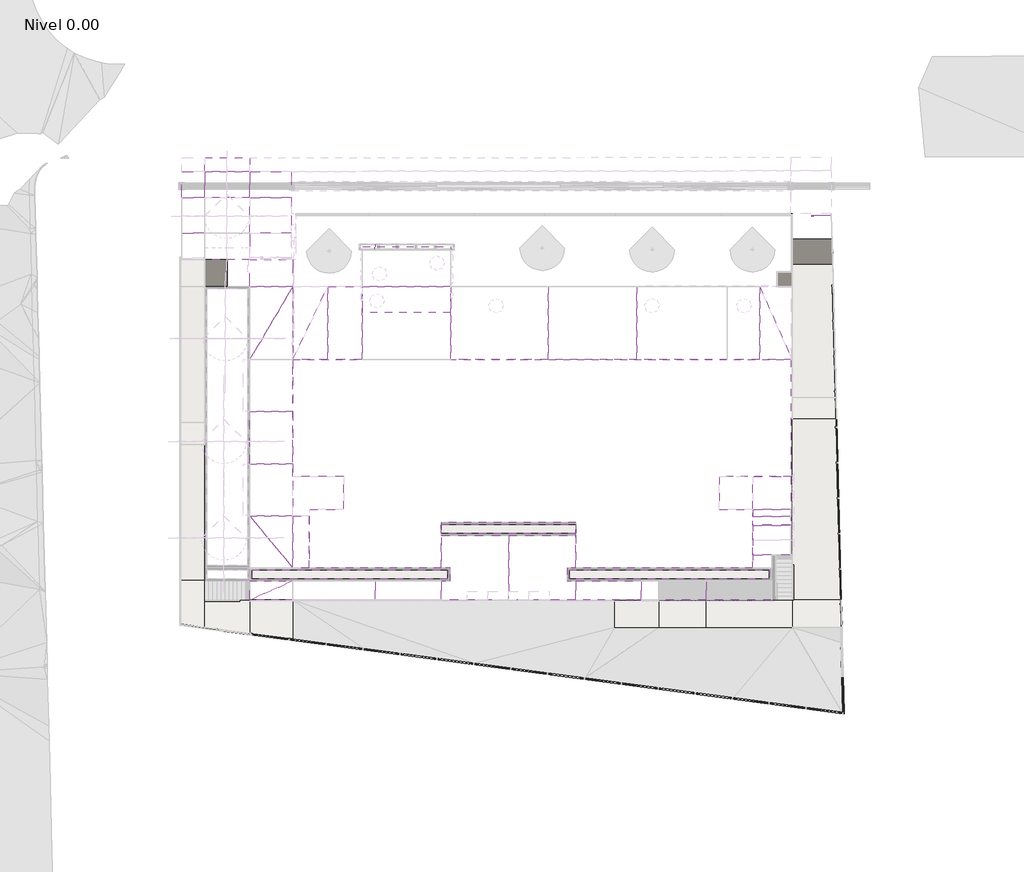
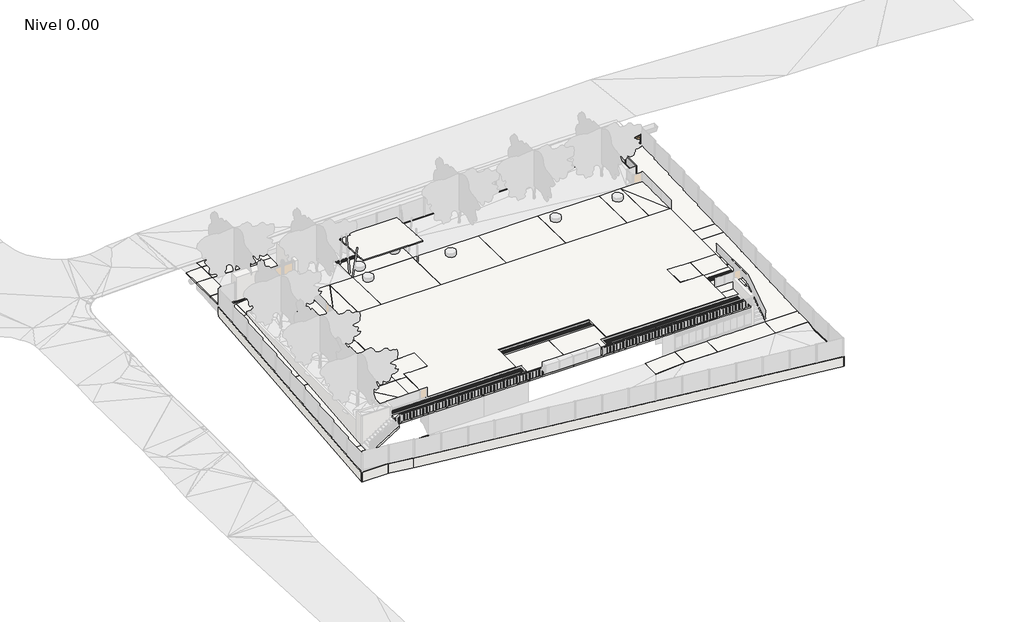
# One storey, part 2 of 10: 81 slabs, 7 members, 2 plates, 1 door.
"""IFC4 building model written with IfcOpenShell, lengths in millimetres."""

from ifc_helpers import new_model, si_unit, frame, origin, place, context, project, spatial, polyline, outline, extrude, faceted_brep, transform, mapped, element, save
from components import door_b53b04aa, rectangular_mullion_b59bd4ae, rectangular_mullion_01378f82, rectangular_mullion_9e2e89eb, rectangular_mullion_f37d23f4, system_panel_3fd6c7ae, slab_bfcec917, slab_3f6e9573, slab_2fa19d57, slab_a19fe4b6, slab_22806a78

model = new_model("IFC4")

# Units and contexts
model_context = context("Model", 3, world=origin())
ifc_project = project(units=[si_unit("LENGTHUNIT", "METRE", prefix="MILLI")], contexts=[model_context])

# Site, building, storey
site = spatial("IfcSite", under=ifc_project)
building = spatial("IfcBuilding", under=site)
storey = spatial("IfcBuildingStorey", under=building, Name="Nivel 0.00", Elevation=0.0)

# Door
placement = place(None, origin())
door_shape = door_b53b04aa(model_context)
element("IfcDoor", 1, ObjectType="PORTON_REJA : PORTON_REJA", at=placement, inside=storey, context=model_context, shape_type="MappedRepresentation", body=[
    mapped(door_shape, transform((19298.5436982, 10678.4129304, 1500.0), x_axis=(1.0, 0.0, 0.0), y_axis=(0.0, 1.0, 0.0), z_axis=(0.0, 0.0, 1.0))),
])

# Members
rectangular_mullion_shape = rectangular_mullion_b59bd4ae(model_context)
element("IfcMember", 2, ObjectType="Rectangular Mullion : ARQ_REJA_MULL_50x30mm", at=placement, inside=storey, context=model_context, shape_type="MappedRepresentation", body=[
    mapped(rectangular_mullion_shape, transform((17966.2770642, 8727.2563048, 2480.0), x_axis=(0.0, 0.0, 1.0), y_axis=(-1.0, 0.0, 0.0), z_axis=(0.0, -1.0, 0.0))),
])
rectangular_mullion_2_shape = rectangular_mullion_01378f82(model_context)
element("IfcMember", 3, ObjectType="Rectangular Mullion : ARQ_REJA_MULL_50x30mm", at=placement, inside=storey, context=model_context, shape_type="MappedRepresentation", body=[
    mapped(rectangular_mullion_2_shape, transform((17916.2770642, 6787.2563048, 1500.0), x_axis=(0.0, 0.0, -1.0), y_axis=(0.0, 1.0, 0.0), z_axis=(1.0, 0.0, 0.0))),
])
element("IfcMember", 4, ObjectType="Rectangular Mullion : ARQ_REJA_MULL_50x30mm", at=placement, inside=storey, context=model_context, shape_type="MappedRepresentation", body=[
    mapped(rectangular_mullion_shape, transform((17966.2770642, 10567.2563048, 1500.0), x_axis=(0.0, 0.0, -1.0), y_axis=(-1.0, 0.0, 0.0), z_axis=(0.0, 1.0, 0.0))),
])
element("IfcMember", 5, ObjectType="Rectangular Mullion : ARQ_REJA_MULL_50x30mm", at=placement, inside=storey, context=model_context, shape_type="MappedRepresentation", body=[
    mapped(rectangular_mullion_shape, transform((17966.2770642, 8677.2563048, 1500.0), x_axis=(0.0, 0.0, -1.0), y_axis=(-1.0, 0.0, 0.0), z_axis=(0.0, 1.0, 0.0))),
])
rectangular_mullion_3_shape = rectangular_mullion_9e2e89eb(model_context)
element("IfcMember", 6, ObjectType="Rectangular Mullion : ARQ_REJA_MULL_50x50mm", at=placement, inside=storey, context=model_context, shape_type="MappedRepresentation", body=[
    mapped(rectangular_mullion_3_shape, transform((17966.2770642, 8702.2563048, 1500.0), x_axis=(0.0, -1.0, 0.0), y_axis=(-1.0, 0.0, 0.0), z_axis=(0.0, 0.0, -1.0))),
])
rectangular_mullion_4_shape = rectangular_mullion_f37d23f4(model_context)
element("IfcMember", 7, ObjectType="Rectangular Mullion : ARQ_REJA_MULL_50x50mm", at=placement, inside=storey, context=model_context, shape_type="MappedRepresentation", body=[
    mapped(rectangular_mullion_4_shape, transform((17966.2770642, 10617.2563048, 2480.0), x_axis=(0.0, 1.0, 0.0), y_axis=(-1.0, 0.0, 0.0), z_axis=(0.0, 0.0, 1.0))),
])
element("IfcMember", 8, ObjectType="Rectangular Mullion : ARQ_REJA_MULL_50x50mm", at=placement, inside=storey, context=model_context, shape_type="MappedRepresentation", body=[
    mapped(rectangular_mullion_4_shape, transform((17966.2770642, 6787.2563048, 2480.0), x_axis=(1.0, 0.0, 0.0), y_axis=(0.0, 1.0, 0.0), z_axis=(0.0, 0.0, 1.0))),
])

# Plates
system_panel_shape = system_panel_3fd6c7ae(model_context)
element("IfcPlate", 9, ObjectType="System Panel : MALLA ACMA", at=placement, inside=storey, context=model_context, shape_type="MappedRepresentation", body=[
    mapped(system_panel_shape, transform((17966.2770642, 9647.2563048, 1530.0), x_axis=(0.0, -1.0, 0.0), y_axis=(1.0, 0.0, 0.0), z_axis=(0.0, 0.0, 1.0))),
])
element("IfcPlate", 10, ObjectType="System Panel : MALLA ACMA", at=placement, inside=storey, context=model_context, shape_type="MappedRepresentation", body=[
    mapped(system_panel_shape, transform((17966.2770642, 7757.2563048, 1530.0), x_axis=(0.0, -1.0, 0.0), y_axis=(1.0, 0.0, 0.0), z_axis=(0.0, 0.0, 1.0))),
])

# Slabs
element("IfcSlab", 11, ObjectType="HORMIGON_SOBRESUELO_200mm", at=placement, inside=storey, context=model_context, shape_type="SweptSolid", body=[
    extrude(outline(polyline([(-16105.4703321, 775.6548754), (17905.5257449, 775.6548754), (17905.5257449, -7204.6648325), (13022.272638, -7204.6648325), (13022.272638, -9454.6965974), (15325.501639, -9454.6965974), (15325.501639, -13454.664938), (3227.4758984, -13454.664938), (3227.4758984, -10350.5740908), (-5969.7253182, -10350.5740908), (-5969.7253182, -13454.664938), (-15005.7010594, -13454.664938), (-15005.7010594, -9454.664938), (-12635.2387284, -9454.664938), (-12635.2387284, -7204.664938), (-16105.4703321, -7204.664938), (-16105.4703321, 775.6548754)])), frame((0.0, 0.0, 1350.0), z_axis=(0.0, 0.0, 1.0), x_axis=(1.0, 0.0, 0.0)), (0.0, 0.0, 1.0), 200.0),
])
element("IfcSlab", 12, ObjectType="ARQ_LOSA_HOMRIGON_100mm", at=placement, inside=storey, context=model_context, shape_type="SweptSolid", body=[
    extrude(outline(polyline([(8509.9222569, 3959.8457979), (4009.9222569, 4209.8457979), (4009.9222569, 4310.0), (8509.9222569, 4060.0), (8509.9222569, 3959.8457979)])), frame((-11335.194761, 0.0, 0.0), z_axis=(1.0, 0.0, 0.0), x_axis=(0.0, 1.0, 0.0)), (0.0, 0.0, 1.0), 6000.0),
])
element("IfcSlab", 13, ObjectType="ARQ_LOSA_HOMRIGON_100mm", at=placement, inside=storey, context=model_context, shape_type="SweptSolid", body=[
    extrude(outline(polyline([(-19057.5715014, -14350.4600242), (-19057.5715014, -13450.5485726), (-5369.7329107, -13450.5485726), (-5369.7329107, -14350.4600242), (-19057.5715014, -14350.4600242)])), frame((0.0, 0.0, 1000.0), z_axis=(0.0, 0.0, 1.0), x_axis=(1.0, 0.0, 0.0)), (0.0, 0.0, 1.0), 100.0),
])
element("IfcSlab", 14, ObjectType="ARQ_LOSA_HOMRIGON_100mm", at=placement, inside=storey, context=model_context, shape_type="SweptSolid", body=[
    extrude(outline(polyline([(-5970.0557705, -10350.5617629), (3227.1464348, -10350.5617629), (3227.1464348, -11250.5609005), (-5970.0557705, -11250.5609005), (-5970.0557705, -10350.5617629)])), frame((0.0, 0.0, 1000.0), z_axis=(0.0, 0.0, 1.0), x_axis=(1.0, 0.0, 0.0)), (0.0, 0.0, 1.0), 100.0),
])
element("IfcSlab", 15, ObjectType="ARQ_LOSA_HOMRIGON_100mm", at=placement, inside=storey, context=model_context, shape_type="SweptSolid", body=[
    extrude(outline(polyline([(2627.4842547, -13450.5485726), (16605.5250488, -13450.5485726), (16605.5250488, -14350.460038), (2627.4842547, -14350.460038), (2627.4842547, -13450.5485726)])), frame((0.0, 0.0, 1000.0), z_axis=(0.0, 0.0, 1.0), x_axis=(1.0, 0.0, 0.0)), (0.0, 0.0, 1.0), 100.0),
])
element("IfcSlab", 16, ObjectType="HORMIGON_M.CONTEN_1000mm", at=placement, inside=storey, context=model_context, shape_type="SweptSolid", body=[
    extrude(outline(polyline([(18006.2770642, 10779.2316763), (18006.2770642, 10628.4129304), (-15904.8329211, 10628.4129304), (-15904.8329211, 10779.2316763), (18006.2770642, 10779.2316763)])), frame((0.0, 0.0, 500.0), z_axis=(0.0, 0.0, 1.0), x_axis=(1.0, 0.0, 0.0)), (0.0, 0.0, 1.0), 1000.0),
])
element("IfcSlab", 17, ObjectType="HORMIGON_M.CONTEN_1000mm", at=placement, inside=storey, context=model_context, shape_type="Brep", body=[
    faceted_brep([(21420.8547927, -17533.6331597, -1733.9405767), (21443.8857201, -18426.6950519, -1999.2746328), (21343.9189564, -18429.2730673, -1999.2746328), (21320.8215453, -17533.6331597, -1733.1746328), (21420.8547927, -17533.6331597, -690.7659439), (21320.8215453, -17533.6331597, -690.0), (21343.9189564, -18429.2730673, -956.1), (21443.8857201, -18426.6950519, -956.1)], [[[0, 1, 2, 3]], [[4, 5, 6, 7]], [[1, 0, 4, 7]], [[2, 1, 7, 6]], [[3, 2, 6, 5]], [[0, 3, 5, 4]]]),
])
element("IfcSlab", 18, ObjectType="HORMIGON_M.CONTEN_1000mm", at=placement, inside=storey, context=model_context, shape_type="SweptSolid", body=[
    extrude(outline(polyline([(-56.1, -2498.815988), (0.0, 0.0), (1000.2519837, 0.0), (944.1519837, -2498.815988), (-56.1, -2498.815988)])), frame((21408.3388165, -20927.2585403, -1900.2519837), z_axis=(0.999667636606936, 0.025780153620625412, 0.0), x_axis=(0.0, 0.0, 1.0)), (0.0, 0.0, 1.0), 100.0),
])
element("IfcSlab", 19, ObjectType="HORMIGON_M.CONTEN_1000mm", at=placement, inside=storey, context=model_context, shape_type="SweptSolid", body=[
    extrude(outline(polyline([(21508.3055801, -20924.6805249), (21570.740537, -23345.6981321), (21470.3620315, -23332.310182), (21408.3388165, -20927.2585403), (21508.3055801, -20924.6805249)])), frame((0.0, 0.0, -1900.0), z_axis=(0.0, 0.0, 1.0), x_axis=(1.0, 0.0, 0.0)), (0.0, 0.0, 1.0), 1000.0),
])
element("IfcSlab", 20, ObjectType="HORMIGON_M.CONTEN_1000mm", at=placement, inside=storey, context=model_context, shape_type="SweptSolid", body=[
    extrude(outline(polyline([(21472.97272, -23433.5439011), (-18990.2145491, -18036.7796549), (-18976.9941513, -17937.6574017), (21585.4023129, -23347.6536416), (21572.1819151, -23446.7758948), (21472.97272, -23433.5439011)])), frame((0.0, 0.0, -1900.0), z_axis=(0.0, 0.0, 1.0), x_axis=(1.0, 0.0, 0.0)), (0.0, 0.0, 1.0), 1000.0),
])
element("IfcSlab", 21, ObjectType="HORMIGON_M.CONTEN_1000mm", at=placement, inside=storey, context=model_context, shape_type="SweptSolid", body=[
    extrude(outline(polyline([(50.0, -2398.6152605), (0.0, 0.0), (1000.2172409, 0.0), (1050.2172409, -2398.6152605), (50.0, -2398.6152605)])), frame((-18991.0487559, -18043.0342665, -1900.2172409), z_axis=(0.13220397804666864, 0.9912225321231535, 0.0), x_axis=(0.0, 0.0, 1.0)), (0.0, 0.0, 1.0), 100.0),
])
element("IfcSlab", 22, ObjectType="HORMIGON_M.CONTEN_1000mm", at=placement, inside=storey, context=model_context, shape_type="Brep", body=[
    faceted_brep([(-21368.610248, -17725.9277872, -1862.7142029), (-23761.6001891, -17406.7635437, -2119.8726918), (-23858.2805205, -17406.7635437, -2130.080687), (-23858.2805205, -17306.7635437, -2131.4889237), (-23754.9608519, -17306.7635437, -2120.579914), (-21355.3898502, -17626.805534, -1862.7142029), (-21368.610248, -17725.9277872, -857.05695), (-21355.3898502, -17626.805534, -857.05695), (-23754.9608519, -17306.7635437, -1114.9226611), (-23858.2805205, -17306.7635437, -1125.8316708), (-23858.2805205, -17406.7635437, -1124.423434), (-23761.6001891, -17406.7635437, -1114.2154389)], [[[0, 1, 2, 3, 4, 5]], [[6, 7, 8, 9, 10, 11]], [[1, 0, 6, 11]], [[2, 1, 11, 10]], [[3, 2, 10, 9]], [[4, 3, 9, 8]], [[5, 4, 8, 7]], [[0, 5, 7, 6]]]),
])
element("IfcSlab", 23, ObjectType="HORMIGON_M.CONTEN_1000mm", at=placement, inside=storey, context=model_context, shape_type="SweptSolid", body=[
    extrude(outline(polyline([(7783.2364563, 389.1268048), (-17306.7635437, -2121.2931952), (-17306.7635437, -1116.3), (7783.2364563, 1394.12), (7783.2364563, 389.1268048)])), frame((-23858.2805205, 0.0, 0.0), z_axis=(1.0, 0.0, 0.0), x_axis=(0.0, 1.0, 0.0)), (0.0, 0.0, 1.0), 100.0),
])
slab_shape = slab_bfcec917(model_context)
element("IfcSlab", 24, ObjectType="REGUERA_METÁLICA1 : REGUERA_METÁLICA-01", at=placement, inside=storey, context=model_context, shape_type="MappedRepresentation", body=[
    mapped(slab_shape, transform((0.0, 0.0, 0.0), x_axis=(1.0, 0.0, 0.0), y_axis=(0.0, 1.0, 0.0), z_axis=(0.0, 0.0, 1.0))),
])
slab_2_shape = slab_3f6e9573(model_context)
element("IfcSlab", 25, ObjectType="REGUERA_METÁLICA2 : REGUERA_METÁLICA-02", at=placement, inside=storey, context=model_context, shape_type="MappedRepresentation", body=[
    mapped(slab_2_shape, transform((0.0, 0.0, -100.0), x_axis=(1.0, 0.0, 0.0), y_axis=(0.0, 1.0, 0.0), z_axis=(0.0, 0.0, 1.0))),
])
slab_3_shape = slab_2fa19d57(model_context)
element("IfcSlab", 26, ObjectType="REGUERA_METÁLICA3 : REGUERA_METÁLICA-03", at=placement, inside=storey, context=model_context, shape_type="MappedRepresentation", body=[
    mapped(slab_3_shape, transform((0.0, 0.0, -100.0), x_axis=(1.0, 0.0, 0.0), y_axis=(0.0, 1.0, 0.0), z_axis=(0.0, 0.0, 1.0))),
])
slab_4_shape = slab_a19fe4b6(model_context)
element("IfcSlab", 27, ObjectType="REGUERA_METÁLICA4 : REGUERA_METÁLICA-04", at=placement, inside=storey, context=model_context, shape_type="MappedRepresentation", body=[
    mapped(slab_4_shape, transform((0.0, 0.0, -100.0), x_axis=(1.0, 0.0, 0.0), y_axis=(0.0, 1.0, 0.0), z_axis=(0.0, 0.0, 1.0))),
])
slab_5_shape = slab_22806a78(model_context)
element("IfcSlab", 28, ObjectType="REGUERA_METÁLICA5 : REGUERA_METÁLICA-03", at=placement, inside=storey, context=model_context, shape_type="MappedRepresentation", body=[
    mapped(slab_5_shape, transform((0.0, 0.0, 0.0), x_axis=(1.0, 0.0, 0.0), y_axis=(0.0, 1.0, 0.0), z_axis=(0.0, 0.0, 1.0))),
])
element("IfcSlab", 29, ObjectType="HORMIGON_EXTERIOR_100mm", at=placement, inside=storey, context=model_context, shape_type="SweptSolid", body=[
    extrude(outline(polyline([(17905.5257449, -10542.9331265), (15325.501639, -10542.9331265), (15325.501639, -9942.9331264), (17905.5257449, -9942.9331264), (17905.5257449, -10542.9331265)]), holes=[polyline([(15355.501639, -9972.9331264), (15355.501639, -10512.9331265), (17875.5257449, -10512.9331265), (17875.5257449, -9972.9331264), (15355.501639, -9972.9331264)])]), frame((0.0, 0.0, 1350.0), z_axis=(0.0, 0.0, 1.0), x_axis=(1.0, 0.0, 0.0)), (0.0, 0.0, 1.0), 100.0),
])
element("IfcSlab", 30, ObjectType="HORMIGON_EXTERIOR_150mm", at=placement, inside=storey, context=model_context, shape_type="Brep", body=[
    faceted_brep([(-19057.6009113, 14585.8770601, 1248.9763312), (-19057.6009113, 13646.8235037, 1349.148963), (-22137.5710032, 13646.8235037, 1349.148963), (-22137.5710032, 14582.640438, 1249.3215948), (-19057.6009113, 14585.8770601, 1399.8273682), (-22137.5710032, 14582.640438, 1400.1726318), (-22137.5710032, 13646.8235037, 1500.0), (-19057.6009113, 13646.8235037, 1500.0)], [[[0, 1, 2, 3]], [[4, 5, 6, 7]], [[1, 0, 4, 7]], [[2, 1, 7, 6]], [[3, 2, 6, 5]], [[0, 3, 5, 4]]]),
])
element("IfcSlab", 31, ObjectType="HORMIGON_EXTERIOR_150mm", at=placement, inside=storey, context=model_context, shape_type="SweptSolid", body=[
    extrude(outline(polyline([(-22137.5711158, 13644.706719), (-22137.5711158, 11845.0592075), (-23708.3183969, 11845.0592075), (-23708.3183969, 13644.706719), (-22137.5711158, 13644.706719)])), frame((0.0, 0.0, 1349.9998947), z_axis=(0.0, 0.0, 1.0), x_axis=(1.0, 0.0, 0.0)), (0.0, 0.0, 1.0), 150.0),
])
element("IfcSlab", 32, ObjectType="HORMIGON_EXTERIOR_150mm", at=placement, inside=storey, context=model_context, shape_type="SweptSolid", body=[
    extrude(outline(polyline([(-19057.5970453, 13646.8235037), (-19057.5970453, 11845.0592075), (-22137.5710032, 11845.0592075), (-22137.5710032, 13646.8235037), (-19057.5970453, 13646.8235037)])), frame((0.0, 0.0, 1349.9998947), z_axis=(0.0, 0.0, 1.0), x_axis=(1.0, 0.0, 0.0)), (0.0, 0.0, 1.0), 150.0),
])
element("IfcSlab", 33, ObjectType="HORMIGON_EXTERIOR_150mm", at=placement, inside=storey, context=model_context, shape_type="SweptSolid", body=[
    extrude(outline(polyline([(-16212.3329211, 13646.5643861), (-16212.3329211, 11845.0592075), (-19057.596933, 11845.0592075), (-19057.596933, 13646.5643861), (-16212.3329211, 13646.5643861)])), frame((0.0, 0.0, 1349.9998947), z_axis=(0.0, 0.0, 1.0), x_axis=(1.0, 0.0, 0.0)), (0.0, 0.0, 1.0), 150.0),
])
element("IfcSlab", 34, ObjectType="HORMIGON_EXTERIOR_150mm", at=placement, inside=storey, context=model_context, shape_type="SweptSolid", body=[
    extrude(outline(polyline([(-23708.2806331, 11845.0592075), (-22137.5711158, 11845.0592075), (-22137.5711158, 9420.6088239), (-23708.2806331, 9420.6088239), (-23708.2806331, 11845.0592075)])), frame((0.0, 0.0, 1349.9998947), z_axis=(0.0, 0.0, 1.0), x_axis=(1.0, 0.0, 0.0)), (0.0, 0.0, 1.0), 150.0),
])
element("IfcSlab", 35, ObjectType="HORMIGON_EXTERIOR_150mm", at=placement, inside=storey, context=model_context, shape_type="SweptSolid", body=[
    extrude(outline(polyline([(-16212.3329211, 11845.0592075), (-16212.3329211, 9420.6088239), (-19057.5970453, 9420.6088239), (-19057.5970453, 11845.0592075), (-16212.3329211, 11845.0592075)])), frame((0.0, 0.0, 1349.9998947), z_axis=(0.0, 0.0, 1.0), x_axis=(1.0, 0.0, 0.0)), (0.0, 0.0, 1.0), 150.0),
])
element("IfcSlab", 36, ObjectType="HORMIGON_EXTERIOR_150mm", at=placement, inside=storey, context=model_context, shape_type="SweptSolid", body=[
    extrude(outline(polyline([(-19057.5970453, 7625.1276387), (-19057.5970453, 9420.6088331), (-16212.3329211, 9420.6088331), (-16212.3329211, 7625.1276387), (-19057.5970453, 7625.1276387)])), frame((0.0, 0.0, 1349.9998947), z_axis=(0.0, 0.0, 1.0), x_axis=(1.0, 0.0, 0.0)), (0.0, 0.0, 1.0), 150.0),
])
element("IfcSlab", 37, ObjectType="HORMIGON_EXTERIOR_150mm", at=placement, inside=storey, context=model_context, shape_type="SweptSolid", body=[
    extrude(outline(polyline([(-22137.5710032, 9420.6088239), (-19057.5970453, 9420.6088239), (-19057.5970453, 7620.6088239), (-22137.5710032, 7620.6088239), (-22137.5710032, 9420.6088239)])), frame((0.0, 0.0, 1349.9998947), z_axis=(0.0, 0.0, 1.0), x_axis=(1.0, 0.0, 0.0)), (0.0, 0.0, 1.0), 150.0),
])
element("IfcSlab", 38, ObjectType="HORMIGON_EXTERIOR_150mm", at=placement, inside=storey, context=model_context, shape_type="SweptSolid", body=[
    extrude(outline(polyline([(-22137.5711159, 9420.6088239), (-22137.5711159, 7625.1276387), (-23708.2806331, 7625.1276387), (-23708.2806331, 9420.6088239), (-22137.5711159, 9420.6088239)])), frame((0.0, 0.0, 1349.9998947), z_axis=(0.0, 0.0, 1.0), x_axis=(1.0, 0.0, 0.0)), (0.0, 0.0, 1.0), 150.0),
])
element("IfcSlab", 39, ObjectType="HORMIGON_EXTERIOR_150mm", at=placement, inside=storey, context=model_context, shape_type="SweptSolid", body=[
    extrude(outline(polyline([(-22137.5711159, 7620.6088239), (-22137.5711159, 5786.4923314), (-23758.2805205, 5786.4923314), (-23758.2805205, 7620.6088239), (-22137.5711159, 7620.6088239)])), frame((0.0, 0.0, 1049.9998947), z_axis=(0.0, 0.0, 1.0), x_axis=(1.0, 0.0, 0.0)), (0.0, 0.0, 1.0), 150.0),
])
element("IfcSlab", 40, ObjectType="HORMIGON_EXTERIOR_150mm", at=placement, inside=storey, context=model_context, shape_type="SweptSolid", body=[
    extrude(outline(polyline([(1049.2900292, -22137.5711159), (1349.2900292, -19057.5715512), (1499.9998947, -19057.5715512), (1199.9998947, -22137.5711159), (1049.2900292, -22137.5711159)])), frame((0.0, 5786.4484666, 0.0), z_axis=(0.0, 1.0, 0.0), x_axis=(0.0, 0.0, 1.0)), (0.0, 0.0, 1.0), 1838.6791721),
])
element("IfcSlab", 41, ObjectType="HORMIGON_EXTERIOR_150mm", at=placement, inside=storey, context=model_context, shape_type="SweptSolid", body=[
    extrude(outline(polyline([(-19057.5715512, 5786.4923314), (-19057.5715512, 7625.1276387), (-16105.3188266, 7625.1276387), (-16105.3188266, 5786.4923314), (-19057.5715512, 5786.4923314)])), frame((0.0, 0.0, 1349.9998947), z_axis=(0.0, 0.0, 1.0), x_axis=(1.0, 0.0, 0.0)), (0.0, 0.0, 1.0), 150.0),
])
element("IfcSlab", 42, ObjectType="HORMIGON_EXTERIOR_150mm", at=placement, inside=storey, context=model_context, shape_type="SweptSolid", body=[
    extrude(outline(polyline([(5786.4923314, 1049.2509174), (-3508.2596588, 119.2509174), (-3508.2596588, 269.9998947), (5786.4923314, 1199.9998947), (5786.4923314, 1049.2509174)])), frame((-23758.2805205, 0.0, 0.0), z_axis=(1.0, 0.0, 0.0), x_axis=(0.0, 1.0, 0.0)), (0.0, 0.0, 1.0), 1620.7094046),
])
element("IfcSlab", 43, ObjectType="HORMIGON_EXTERIOR_150mm", at=placement, inside=storey, context=model_context, shape_type="SweptSolid", body=[
    extrude(outline(polyline([(-22137.5711159, -3508.2596588), (-22137.5711159, -5008.2596588), (-23758.2805205, -5008.2596588), (-23758.2805205, -3508.2596588), (-22137.5711159, -3508.2596588)])), frame((0.0, 0.0, 119.9998947), z_axis=(0.0, 0.0, 1.0), x_axis=(1.0, 0.0, 0.0)), (0.0, 0.0, 1.0), 150.0),
])
element("IfcSlab", 44, ObjectType="HORMIGON_EXTERIOR_150mm", at=placement, inside=storey, context=model_context, shape_type="SweptSolid", body=[
    extrude(outline(polyline([(-5008.2596588, 119.2509174), (-14303.0116489, -810.7490826), (-14303.0116489, -660.0001053), (-5008.2596588, 269.9998947), (-5008.2596588, 119.2509174)])), frame((-23758.2805205, 0.0, 0.0), z_axis=(1.0, 0.0, 0.0), x_axis=(0.0, 1.0, 0.0)), (0.0, 0.0, 1.0), 1620.7094046),
])
element("IfcSlab", 45, ObjectType="HORMIGON_EXTERIOR_150mm", at=placement, inside=storey, context=model_context, shape_type="SweptSolid", body=[
    extrude(outline(polyline([(-21860.1824996, -14303.0116489), (-21860.1824996, -15653.0981615), (-22137.5710033, -15653.0981615), (-22137.5710033, -17522.4823809), (-23758.2805205, -17306.320784), (-23758.2805205, -14303.0116489), (-21860.1824996, -14303.0116489)])), frame((0.0, 0.0, -810.0001053), z_axis=(0.0, 0.0, 1.0), x_axis=(1.0, 0.0, 0.0)), (0.0, 0.0, 1.0), 150.0),
])
element("IfcSlab", 46, ObjectType="HORMIGON_EXTERIOR_150mm", at=placement, inside=storey, context=model_context, shape_type="Brep", body=[
    faceted_brep([(-22137.5710033, -15653.0981615, -810.2852429), (-19057.5711857, -15653.0981615, -1000.2852429), (-19057.5711857, -17933.27634, -1000.2852429), (-22137.5710033, -17522.4823809, -810.2852429), (-22137.5710033, -15653.0981615, -660.0001053), (-22137.5710033, -17522.4823809, -660.0001053), (-19057.5711857, -17933.27634, -850.0001053), (-19057.5711857, -15653.0981615, -850.0001053)], [[[0, 1, 2, 3]], [[4, 5, 6, 7]], [[1, 0, 4, 7]], [[2, 1, 7, 6]], [[3, 2, 6, 5]], [[0, 3, 5, 4]]]),
])
element("IfcSlab", 47, ObjectType="HORMIGON_EXTERIOR_150mm", at=placement, inside=storey, context=model_context, shape_type="SweptSolid", body=[
    extrude(outline(polyline([(-16105.5690678, -15653.0755384), (-16105.5690678, -18320.6327744), (-19057.5711857, -17926.9104663), (-19057.5711857, -15653.0755384), (-16105.5690678, -15653.0755384)])), frame((0.0, 0.0, -1000.0001053), z_axis=(0.0, 0.0, 1.0), x_axis=(1.0, 0.0, 0.0)), (0.0, 0.0, 1.0), 150.0),
])
element("IfcSlab", 48, ObjectType="HORMIGON_EXTERIOR_150mm", at=placement, inside=storey, context=model_context, shape_type="Brep", body=[
    faceted_brep([(-19057.5692937, -15653.0755384, 1369.9821029), (-16105.5690678, -14354.586138, 1349.9821029), (-16105.5690678, -15653.0755384, 1369.9821029), (-19057.5692937, -15653.0755384, 1519.9998947), (-16105.5690678, -15653.0755384, 1519.9998947), (-16105.5690678, -14354.586138, 1499.9998947)], [[[0, 1, 2]], [[3, 4, 5]], [[1, 0, 3, 5]], [[2, 1, 5, 4]], [[0, 2, 4, 3]]]),
])
element("IfcSlab", 49, ObjectType="HORMIGON_EXTERIOR_150mm", at=placement, inside=storey, context=model_context, shape_type="SweptSolid", body=[
    extrude(outline(polyline([(-19057.5710032, -15653.0762903), (-19057.5710032, -14354.5640618), (-16105.5188795, -14354.5640618), (-19057.5710032, -15653.0762903)])), frame((0.0, 0.0, 1349.9998947), z_axis=(0.0, 0.0, 1.0), x_axis=(1.0, 0.0, 0.0)), (0.0, 0.0, 1.0), 150.0),
])
element("IfcSlab", 50, ObjectType="HORMIGON_EXTERIOR_150mm", at=placement, inside=storey, context=model_context, shape_type="SweptSolid", body=[
    extrude(outline(polyline([(-14354.5640618, 1349.9821036), (-15653.0786145, 1369.9821036), (-15653.0786145, 1519.9998947), (-14354.5640618, 1499.9998947), (-14354.5640618, 1349.9821036)])), frame((-16105.5188795, 0.0, 0.0), z_axis=(1.0, 0.0, 0.0), x_axis=(0.0, 1.0, 0.0)), (0.0, 0.0, 1.0), 5618.0465676),
])
element("IfcSlab", 51, ObjectType="HORMIGON_EXTERIOR_150mm", at=placement, inside=storey, context=model_context, shape_type="SweptSolid", body=[
    extrude(outline(polyline([(-14354.5640618, 1349.9821036), (-15653.0786145, 1369.9821036), (-15653.0786145, 1519.9998947), (-14354.5640618, 1499.9998947), (-14354.5640618, 1349.9821036)])), frame((-10487.4723119, 0.0, 0.0), z_axis=(1.0, 0.0, 0.0), x_axis=(0.0, 1.0, 0.0)), (0.0, 0.0, 1.0), 4517.7469937),
])
element("IfcSlab", 52, ObjectType="HORMIGON_EXTERIOR_150mm", at=placement, inside=storey, context=model_context, shape_type="Brep", body=[
    faceted_brep([(-5969.7253182, -15653.079504, 1369.9936921), (-5969.7253182, -14354.6619487, 1358.1857749), (-5369.7342942, -14354.6619487, 1358.1857749), (-5369.7342942, -13454.664938, 1350.0011272), (-5969.7253182, -13454.664938, 1350.0011272), (-5969.7253182, -11254.6152211, 1329.9936921), (-1371.1242154, -11254.6152211, 1329.9936921), (-1371.1242154, -15653.079504, 1369.9936921), (-5969.7253182, -15653.079504, 1519.9998947), (-1371.1242154, -15653.079504, 1519.9998947), (-1371.1242154, -11254.6152211, 1479.9998947), (-5969.7253182, -11254.6152211, 1479.9998947), (-5969.7253182, -13454.664938, 1500.0073298), (-5369.7342942, -13454.664938, 1500.0073298), (-5369.7342942, -14354.6619487, 1508.1919774), (-5969.7253182, -14354.6619487, 1508.1919774)], [[[0, 1, 2, 3, 4, 5, 6, 7]], [[8, 9, 10, 11, 12, 13, 14, 15]], [[1, 0, 8, 15]], [[2, 1, 15, 14]], [[3, 2, 14, 13]], [[4, 3, 13, 12]], [[5, 4, 12, 11]], [[6, 5, 11, 10]], [[7, 6, 10, 9]], [[0, 7, 9, 8]]]),
])
element("IfcSlab", 53, ObjectType="HORMIGON_EXTERIOR_150mm", at=placement, inside=storey, context=model_context, shape_type="Brep", body=[
    faceted_brep([(3227.4719013, -11254.6643667, 1329.993692), (3227.4719013, -13454.612315, 1350.0004251), (2627.4808773, -13454.612315, 1350.0004251), (2627.4808773, -14354.6664362, 1358.1856836), (3227.4719013, -14354.6619487, 1358.1856428), (3227.4719013, -15653.079504, 1369.993692), (-1371.1283507, -15653.079504, 1369.993692), (-1371.1292015, -11254.6643667, 1329.993692), (3227.4719013, -11254.6643667, 1479.9998947), (-1371.1292015, -11254.6643667, 1479.9998947), (-1371.1283507, -15653.079504, 1519.9998947), (3227.4719013, -15653.079504, 1519.9998947), (3227.4719013, -14354.6619487, 1508.1918455), (2627.4808773, -14354.6664362, 1508.1918863), (2627.4808773, -13454.612315, 1500.0066278), (3227.4719013, -13454.612315, 1500.0066278)], [[[0, 1, 2, 3, 4, 5, 6, 7]], [[8, 9, 10, 11, 12, 13, 14, 15]], [[1, 0, 8, 15]], [[2, 1, 15, 14]], [[3, 2, 14, 13]], [[4, 3, 13, 12]], [[5, 4, 12, 11]], [[6, 5, 11, 10]], [[7, 6, 10, 9]], [[0, 7, 9, 8]]]),
])
element("IfcSlab", 54, ObjectType="HORMIGON_EXTERIOR_150mm", at=placement, inside=storey, context=model_context, shape_type="Brep", body=[
    faceted_brep([(7686.8259848, -14354.6619487, 1349.982101), (7686.8259848, -15653.0159448, 1369.981095), (7185.3981866, -15653.0812561, 1369.982101), (3227.4719013, -15653.0812561, 1369.982101), (3227.4719013, -14354.6619487, 1349.982101), (7686.8259848, -14354.6619487, 1499.9998947), (3227.4719013, -14354.6619487, 1499.9998947), (3227.4719013, -15653.0812561, 1519.9998947), (7185.3981866, -15653.0812561, 1519.9998947), (7686.8259848, -15653.0159448, 1519.9988887)], [[[0, 1, 2, 3, 4]], [[5, 6, 7, 8, 9]], [[1, 0, 5, 9]], [[4, 3, 7, 6]], [[0, 4, 6, 5]], [[2, 1, 9, 8]], [[3, 2, 8, 7]]]),
])
element("IfcSlab", 55, ObjectType="HORMIGON_EXTERIOR_150mm", at=placement, inside=storey, context=model_context, shape_type="SweptSolid", body=[
    extrude(outline(polyline([(-14354.6619487, 1349.9820992), (-15653.0159448, 1369.9820992), (-15653.0159448, 1519.9998947), (-14354.6619487, 1499.9998947), (-14354.6619487, 1349.9820992)])), frame((7686.8259848, 0.0, 0.0), z_axis=(1.0, 0.0, 0.0), x_axis=(0.0, 1.0, 0.0)), (0.0, 0.0, 1.0), 4459.3490959),
])
element("IfcSlab", 56, ObjectType="HORMIGON_EXTERIOR_150mm", at=placement, inside=storey, context=model_context, shape_type="SweptSolid", body=[
    extrude(outline(polyline([(-14354.6619487, 1349.9820992), (-15653.0159448, 1369.9820992), (-15653.0159448, 1519.9998947), (-14354.6619487, 1499.9998947), (-14354.6619487, 1349.9820992)])), frame((12146.1750807, 0.0, 0.0), z_axis=(1.0, 0.0, 0.0), x_axis=(0.0, 1.0, 0.0)), (0.0, 0.0, 1.0), 4459.3490879),
])
element("IfcSlab", 57, ObjectType="HORMIGON_EXTERIOR_150mm", at=placement, inside=storey, context=model_context, shape_type="SweptSolid", body=[
    extrude(outline(polyline([(-1000.2132572, 5877.3981866), (-840.2132572, 8877.6095488), (-690.0001053, 8877.6095488), (-850.0001053, 5877.3981866), (-1000.2132572, 5877.3981866)])), frame((0.0, -17533.9831701, 0.0), z_axis=(0.0, 1.0, 0.0), x_axis=(0.0, 0.0, 1.0)), (0.0, 0.0, 1.0), 1860.9019141),
])
element("IfcSlab", 58, ObjectType="HORMIGON_EXTERIOR_150mm", at=placement, inside=storey, context=model_context, shape_type="SweptSolid", body=[
    extrude(outline(polyline([(12146.1750821, -17533.6706701), (8877.6095488, -17533.6706701), (8877.6095488, -15653.0159448), (12146.1750821, -15653.0159448), (12146.1750821, -17533.6706701)])), frame((0.0, 0.0, -840.0001053), z_axis=(0.0, 0.0, 1.0), x_axis=(1.0, 0.0, 0.0)), (0.0, 0.0, 1.0), 150.0),
])
element("IfcSlab", 59, ObjectType="HORMIGON_EXTERIOR_150mm", at=placement, inside=storey, context=model_context, shape_type="Brep", body=[
    faceted_brep([(12146.1750807, -17533.6331597, -840.0191896), (12146.1750807, -15653.0159448, -810.0191896), (16905.5253342, -15653.0159448, -810.0191896), (16905.5253342, -15373.3842754, -805.5584466), (18005.5396192, -15373.3842754, -805.5584466), (18005.5396192, -17533.6331597, -840.0191896), (12146.1750807, -17533.6331597, -690.0001053), (18005.5396192, -17533.6331597, -690.0001053), (18005.5396192, -15373.3842754, -655.5393623), (16905.5253342, -15373.3842754, -655.5393623), (16905.5253342, -15653.0159448, -660.0001053), (12146.1750807, -15653.0159448, -660.0001053)], [[[0, 1, 2, 3, 4, 5]], [[6, 7, 8, 9, 10, 11]], [[1, 0, 6, 11]], [[2, 1, 11, 10]], [[5, 4, 8, 7]], [[0, 5, 7, 6]], [[3, 2, 10, 9]], [[4, 3, 9, 8]]]),
])
element("IfcSlab", 60, ObjectType="HORMIGON_EXTERIOR_150mm", at=placement, inside=storey, context=model_context, shape_type="Brep", body=[
    faceted_brep([(18005.5396192, -15653.0786726, -810.0191909), (21372.3576904, -15653.0786726, -810.0191909), (21420.8547927, -17533.6331597, -840.0191909), (18005.5396192, -17533.6331597, -840.0191909), (18005.5396192, -15653.0786726, -660.0001053), (18005.5396192, -17533.6331597, -690.0001053), (21420.8547927, -17533.6331597, -690.0001053), (21372.3576904, -15653.0786726, -660.0001053)], [[[0, 1, 2, 3]], [[4, 5, 6, 7]], [[1, 0, 4, 7]], [[2, 1, 7, 6]], [[3, 2, 6, 5]], [[0, 3, 5, 4]]]),
])
element("IfcSlab", 61, ObjectType="HORMIGON_EXTERIOR_150mm", at=placement, inside=storey, context=model_context, shape_type="Brep", body=[
    faceted_brep([(18005.5257456, -15653.0786726, -810.5716435), (18005.5257456, -3293.0786547, 269.4283565), (21053.6090509, -3293.0786547, 269.4283565), (21372.3576904, -15653.0786726, -810.5716435), (18005.5257456, -15653.0786726, -660.0001053), (21372.3576904, -15653.0786726, -660.0001053), (21053.6090509, -3293.0786547, 419.9998947), (18005.5257456, -3293.0786547, 419.9998947)], [[[0, 1, 2, 3]], [[4, 5, 6, 7]], [[1, 0, 4, 7]], [[2, 1, 7, 6]], [[3, 2, 6, 5]], [[0, 3, 5, 4]]]),
])
element("IfcSlab", 62, ObjectType="HORMIGON_EXTERIOR_150mm", at=placement, inside=storey, context=model_context, shape_type="SweptSolid", body=[
    extrude(outline(polyline([(21014.9259636, -1793.0786547), (21053.6090509, -3293.0786547), (18005.5257458, -3293.0786547), (18005.5257458, -1793.0786547), (21014.9259636, -1793.0786547)])), frame((0.0, 0.0, 269.9998947), z_axis=(0.0, 0.0, 1.0), x_axis=(1.0, 0.0, 0.0)), (0.0, 0.0, 1.0), 150.0),
])
element("IfcSlab", 63, ObjectType="HORMIGON_EXTERIOR_150mm", at=placement, inside=storey, context=model_context, shape_type="Brep", body=[
    faceted_brep([(18005.5257456, -1793.0786547, 269.4469736), (18005.5257456, 10773.8010383, 1349.458115), (20690.8484405, 10773.5575396, 1349.4371884), (21014.9259636, -1793.0786547, 269.4469736), (18005.5257456, -1793.0786547, 419.9998947), (21014.9259636, -1793.0786547, 419.9998947), (20690.8484405, 10773.5575396, 1499.9901095), (18005.5257456, 10773.8010383, 1500.011036)], [[[0, 1, 2, 3]], [[4, 5, 6, 7]], [[1, 0, 4, 7]], [[2, 1, 7, 6]], [[3, 2, 6, 5]], [[0, 3, 5, 4]]]),
])
element("IfcSlab", 64, ObjectType="HORMIGON_EXTERIOR_150mm", at=placement, inside=storey, context=model_context, shape_type="SweptSolid", body=[
    extrude(outline(polyline([(5786.4923289, 1249.9700273), (775.6548743, 1349.9700273), (775.6548743, 1499.9998947), (5786.4923289, 1399.9998947), (5786.4923289, 1249.9700273)])), frame((7374.8865803, 0.0, 0.0), z_axis=(1.0, 0.0, 0.0), x_axis=(0.0, 1.0, 0.0)), (0.0, 0.0, 1.0), 6209.9001687),
])
element("IfcSlab", 65, ObjectType="HORMIGON_EXTERIOR_150mm", at=placement, inside=storey, context=model_context, shape_type="SweptSolid", body=[
    extrude(outline(polyline([(5786.4923289, 1249.9700273), (775.6548754, 1349.9700273), (775.6548754, 1499.9998947), (5786.4923289, 1399.9998947), (5786.4923289, 1249.9700273)])), frame((1334.5854818, 0.0, 0.0), z_axis=(1.0, 0.0, 0.0), x_axis=(0.0, 1.0, 0.0)), (0.0, 0.0, 1.0), 6040.3010985),
])
element("IfcSlab", 66, ObjectType="HORMIGON_EXTERIOR_150mm", at=placement, inside=storey, context=model_context, shape_type="SweptSolid", body=[
    extrude(outline(polyline([(5786.4923289, 1249.9700273), (775.6548754, 1349.9700273), (775.6548754, 1499.9998947), (5786.4923289, 1399.9998947), (5786.4923289, 1249.9700273)])), frame((-5315.2388723, 0.0, 0.0), z_axis=(1.0, 0.0, 0.0), x_axis=(0.0, 1.0, 0.0)), (0.0, 0.0, 1.0), 6649.8243542),
])
element("IfcSlab", 67, ObjectType="HORMIGON_EXTERIOR_150mm", at=placement, inside=storey, context=model_context, shape_type="SweptSolid", body=[
    extrude(outline(polyline([(5786.4923289, 1249.9700183), (776.4101897, 1349.9700183), (776.4101897, 1499.9998947), (5786.4923289, 1399.9998947), (5786.4923289, 1249.9700183)])), frame((-11355.1504225, 0.0, 0.0), z_axis=(1.0, 0.0, 0.0), x_axis=(0.0, 1.0, 0.0)), (0.0, 0.0, 1.0), 6039.9115502),
])
element("IfcSlab", 68, ObjectType="HORMIGON_EXTERIOR_150mm", at=placement, inside=storey, context=model_context, shape_type="SweptSolid", body=[
    extrude(outline(polyline([(-11355.1504225, 5786.4923289), (-11355.1504225, 8280.9816931), (-5315.2388723, 8280.9816931), (-5315.2388723, 5786.4923289), (-11355.1504225, 5786.4923289)])), frame((0.0, 0.0, 1249.9998947), z_axis=(0.0, 0.0, 1.0), x_axis=(1.0, 0.0, 0.0)), (0.0, 0.0, 1.0), 150.0),
])
element("IfcSlab", 69, ObjectType="HORMIGON_EXTERIOR_150mm", at=placement, inside=storey, context=model_context, shape_type="SweptSolid", body=[
    extrude(outline(polyline([(5786.4923289, 1249.9700183), (776.4101897, 1349.9700183), (776.4101897, 1499.9998947), (5786.4923289, 1399.9998947), (5786.4923289, 1249.9700183)])), frame((-13730.1963435, 0.0, 0.0), z_axis=(1.0, 0.0, 0.0), x_axis=(0.0, 1.0, 0.0)), (0.0, 0.0, 1.0), 2375.0459209),
])
element("IfcSlab", 70, ObjectType="HORMIGON_EXTERIOR_150mm", at=placement, inside=storey, context=model_context, shape_type="Brep", body=[
    faceted_brep([(-16105.4703321, 775.3350043, 1349.9700311), (-13730.193793, 5786.4923317, 1249.9700311), (-13730.193793, 775.3350043, 1349.9700311), (-16105.4703321, 775.3350043, 1499.9998947), (-13730.193793, 775.3350043, 1499.9998947), (-13730.193793, 5786.4923317, 1399.9998947)], [[[0, 1, 2]], [[3, 4, 5]], [[1, 0, 3, 5]], [[2, 1, 5, 4]], [[0, 2, 4, 3]]]),
])
element("IfcSlab", 71, ObjectType="HORMIGON_EXTERIOR_150mm", at=placement, inside=storey, context=model_context, shape_type="Brep", body=[
    faceted_brep([(-16105.2371637, 5786.4923287, 1349.8669944), (-13730.1937945, 5786.4923287, 1249.8669944), (-16105.2371637, 775.8269233, 1349.8669944), (-16105.2371637, 5786.4923287, 1499.9998947), (-16105.2371637, 775.8269233, 1499.9998947), (-13730.1937945, 5786.4923287, 1399.9998947)], [[[0, 1, 2]], [[3, 4, 5]], [[1, 0, 3, 5]], [[2, 1, 5, 4]], [[0, 2, 4, 3]]]),
])
element("IfcSlab", 72, ObjectType="HORMIGON_EXTERIOR_150mm", at=placement, inside=storey, context=model_context, shape_type="Brep", body=[
    faceted_brep([(-16105.2371637, 5786.4923314, 1349.9972067), (-19057.5707845, 775.3352074, 1319.9972067), (-19057.5707845, 5786.4923314, 1349.9972067), (-16105.2371637, 5786.4923314, 1499.9998947), (-19057.5707845, 5786.4923314, 1499.9998947), (-19057.5707845, 775.3352074, 1469.9998947)], [[[0, 1, 2]], [[3, 4, 5]], [[1, 0, 3, 5]], [[2, 1, 5, 4]], [[0, 2, 4, 3]]]),
])
element("IfcSlab", 73, ObjectType="HORMIGON_EXTERIOR_150mm", at=placement, inside=storey, context=model_context, shape_type="Brep", body=[
    faceted_brep([(-16105.2371637, 5786.4923314, 1349.994519), (-16105.2371637, 775.6548754, 1349.994519), (-19057.3824514, 775.6548754, 1319.9940441), (-16105.2371637, 5786.4923314, 1500.0022642), (-19057.3824514, 775.6548754, 1470.0017893), (-16105.2371637, 775.6548754, 1500.0022642)], [[[0, 1, 2]], [[3, 4, 5]], [[1, 0, 3, 5]], [[2, 1, 5, 4]], [[0, 2, 4, 3]]]),
])
element("IfcSlab", 74, ObjectType="HORMIGON_EXTERIOR_150mm", at=placement, inside=storey, context=model_context, shape_type="SweptSolid", body=[
    extrude(outline(polyline([(1319.9921495, -19057.5688857), (1349.9921495, -16105.4703321), (1499.9998947, -16105.4703321), (1469.9998947, -19057.5688857), (1319.9921495, -19057.5688857)])), frame((0.0, -2782.1649813, 0.0), z_axis=(0.0, 1.0, 0.0), x_axis=(0.0, 0.0, 1.0)), (0.0, 0.0, 1.0), 3557.4999856),
])
element("IfcSlab", 75, ObjectType="HORMIGON_EXTERIOR_150mm", at=placement, inside=storey, context=model_context, shape_type="SweptSolid", body=[
    extrude(outline(polyline([(1319.9921495, -19057.5714386), (1349.9921495, -16105.4703321), (1499.9998947, -16105.4703321), (1469.9998947, -19057.5714386), (1319.9921495, -19057.5714386)])), frame((0.0, -6339.6649669, 0.0), z_axis=(0.0, 1.0, 0.0), x_axis=(0.0, 0.0, 1.0)), (0.0, 0.0, 1.0), 3557.4999856),
])
element("IfcSlab", 76, ObjectType="HORMIGON_EXTERIOR_150mm", at=placement, inside=storey, context=model_context, shape_type="SweptSolid", body=[
    extrude(outline(polyline([(1319.9921495, -19057.5707845), (1349.9921495, -16105.4703321), (1499.9998947, -16105.4703321), (1469.9998947, -19057.5707845), (1319.9921495, -19057.5707845)])), frame((0.0, -9898.187894, 0.0), z_axis=(0.0, 1.0, 0.0), x_axis=(0.0, 0.0, 1.0)), (0.0, 0.0, 1.0), 3558.5229271),
])
element("IfcSlab", 77, ObjectType="HORMIGON_EXTERIOR_150mm", at=placement, inside=storey, context=model_context, shape_type="Brep", body=[
    faceted_brep([(-19057.5871216, -9897.1647493, 1319.9919835), (-16105.5690769, -9897.1647493, 1349.991146), (-16105.5690769, -13454.6649378, 1349.991146), (-19057.5871216, -9897.1647493, 1469.9997287), (-16105.5690769, -13454.6649378, 1499.9988912), (-16105.5690769, -9897.1647493, 1499.9988912)], [[[0, 1, 2]], [[3, 4, 5]], [[1, 0, 3, 5]], [[2, 1, 5, 4]], [[0, 2, 4, 3]]]),
])
element("IfcSlab", 78, ObjectType="HORMIGON_EXTERIOR_150mm", at=placement, inside=storey, context=model_context, shape_type="Brep", body=[
    faceted_brep([(-16105.5690768, -13454.664938, 1349.9945608), (-19057.4727029, -13454.664938, 1349.9945608), (-19057.4727029, -9897.3026361, 1319.9945608), (-16105.5690768, -13454.664938, 1499.9998947), (-19057.4727029, -9897.3026361, 1469.9998947), (-19057.4727029, -13454.664938, 1499.9998947)], [[[0, 1, 2]], [[3, 4, 5]], [[1, 0, 3, 5]], [[2, 1, 5, 4]], [[0, 2, 4, 3]]]),
])
element("IfcSlab", 79, ObjectType="HORMIGON_EXTERIOR_150mm", at=placement, inside=storey, context=model_context, shape_type="SweptSolid", body=[
    extrude(outline(polyline([(-15005.7010594, -13454.6649378), (-16105.5690769, -13454.6649378), (-16105.5690769, -9897.1647493), (-15005.7010594, -9897.1647493), (-15005.7010594, -13454.6649378)])), frame((0.0, 0.0, 1349.9998947), z_axis=(0.0, 0.0, 1.0), x_axis=(1.0, 0.0, 0.0)), (0.0, 0.0, 1.0), 150.0),
])
element("IfcSlab", 80, ObjectType="HORMIGON_EXTERIOR_150mm", at=placement, inside=storey, context=model_context, shape_type="Brep", body=[
    faceted_brep([(-12635.2387284, -7204.664938, 1449.9376282), (-12635.2387284, -9454.664938, 1449.9376282), (-15005.2387281, -9454.664938, 1381.6424747), (-15005.2387281, -9897.1647493, 1381.6424747), (-16105.4703321, -9897.1647493, 1349.9376282), (-16105.4703321, -7204.664938, 1349.9376282), (-12635.2387284, -7204.664938, 1599.9998947), (-16105.4703321, -7204.664938, 1499.9998947), (-16105.4703321, -9897.1647493, 1499.9998947), (-15005.2387281, -9897.1647493, 1531.7047412), (-15005.2387281, -9454.664938, 1531.7047412), (-12635.2387284, -9454.664938, 1599.9998947)], [[[0, 1, 2, 3, 4, 5]], [[6, 7, 8, 9, 10, 11]], [[1, 0, 6, 11]], [[2, 1, 11, 10]], [[3, 2, 10, 9]], [[4, 3, 9, 8]], [[5, 4, 8, 7]], [[0, 5, 7, 6]]]),
])
element("IfcSlab", 81, ObjectType="HORMIGON_EXTERIOR_150mm", at=placement, inside=storey, context=model_context, shape_type="SweptSolid", body=[
    extrude(outline(polyline([(5786.4923295, 1249.9700273), (775.6548754, 1349.9700273), (775.6548754, 1499.9998947), (5786.4923295, 1399.9998947), (5786.4923295, 1249.9700273)])), frame((13585.3788782, 0.0, 0.0), z_axis=(1.0, 0.0, 0.0), x_axis=(0.0, 1.0, 0.0)), (0.0, 0.0, 1.0), 2209.7773692),
])
element("IfcSlab", 82, ObjectType="HORMIGON_EXTERIOR_150mm", at=placement, inside=storey, context=model_context, shape_type="Brep", body=[
    faceted_brep([(15795.1562474, 5786.4923287, 1249.9700273), (18005.5257456, 775.6548754, 1349.9700273), (15795.1562474, 775.6548754, 1349.9700273), (15795.1562474, 5786.4923287, 1399.9998947), (15795.1562474, 775.6548754, 1499.9998947), (18005.5257456, 775.6548754, 1499.9998947)], [[[0, 1, 2]], [[3, 4, 5]], [[1, 0, 3, 5]], [[2, 1, 5, 4]], [[0, 2, 4, 3]]]),
])
element("IfcSlab", 83, ObjectType="HORMIGON_EXTERIOR_150mm", at=placement, inside=storey, context=model_context, shape_type="Brep", body=[
    faceted_brep([(15795.1562474, 5786.4923287, 1279.9852589), (18005.5257456, 5786.4923287, 1279.9852589), (18005.5257456, 775.6548754, 1349.9852589), (15795.1562474, 5786.4923287, 1429.9998947), (18005.5257456, 775.6548754, 1499.9998947), (18005.5257456, 5786.4923287, 1429.9998947)], [[[0, 1, 2]], [[3, 4, 5]], [[1, 0, 3, 5]], [[2, 1, 5, 4]], [[0, 2, 4, 3]]]),
])
element("IfcSlab", 84, ObjectType="HORMIGON_EXTERIOR_150mm", at=placement, inside=storey, context=model_context, shape_type="SweptSolid", body=[
    extrude(outline(polyline([(15325.501639, -13454.6649516), (15325.501639, -12573.0786725), (16605.5251614, -12573.0786725), (16605.5251614, -13454.6649516), (15325.501639, -13454.6649516)])), frame((0.0, 0.0, 1369.9998947), z_axis=(0.0, 0.0, 1.0), x_axis=(1.0, 0.0, 0.0)), (0.0, 0.0, 1.0), 150.0),
])
element("IfcSlab", 85, ObjectType="HORMIGON_EXTERIOR_150mm", at=placement, inside=storey, context=model_context, shape_type="SweptSolid", body=[
    extrude(outline(polyline([(-10542.9331265, 1349.9926159), (-12573.0786725, 1369.9926159), (-12573.0786725, 1519.9998947), (-10542.9331265, 1499.9998947), (-10542.9331265, 1349.9926159)])), frame((15325.501639, 0.0, 0.0), z_axis=(1.0, 0.0, 0.0), x_axis=(0.0, 1.0, 0.0)), (0.0, 0.0, 1.0), 2580.024106),
])
element("IfcSlab", 86, ObjectType="HORMIGON_EXTERIOR_150mm", at=placement, inside=storey, context=model_context, shape_type="SweptSolid", body=[
    extrude(outline(polyline([(-9454.6965974, 1369.8740953), (-9942.9331264, 1349.8740953), (-9942.9331264, 1499.9998947), (-9454.6965974, 1519.9998947), (-9454.6965974, 1369.8740953)])), frame((15325.501639, 0.0, 0.0), z_axis=(1.0, 0.0, 0.0), x_axis=(0.0, 1.0, 0.0)), (0.0, 0.0, 1.0), 2580.024106),
])
element("IfcSlab", 87, ObjectType="HORMIGON_EXTERIOR_150mm", at=placement, inside=storey, context=model_context, shape_type="SweptSolid", body=[
    extrude(outline(polyline([(15325.501639, -7204.6648325), (17905.5257449, -7204.6648325), (17905.5257449, -9454.6965974), (15325.501639, -9454.6965974), (15325.501639, -7204.6648325)])), frame((0.0, 0.0, 1369.9998947), z_axis=(0.0, 0.0, 1.0), x_axis=(1.0, 0.0, 0.0)), (0.0, 0.0, 1.0), 150.0),
])
element("IfcSlab", 88, ObjectType="HORMIGON_EXTERIOR_150mm", at=placement, inside=storey, context=model_context, shape_type="SweptSolid", body=[
    extrude(outline(polyline([(1449.9094389, 13022.272638), (1369.9094389, 15325.501639), (1519.9998947, 15325.501639), (1599.9998947, 13022.272638), (1449.9094389, 13022.272638)])), frame((0.0, -9454.6965974, 0.0), z_axis=(0.0, 1.0, 0.0), x_axis=(0.0, 0.0, 1.0)), (0.0, 0.0, 1.0), 2250.0317649),
])
element("IfcSlab", 89, ObjectType="HORMIGON_EXTERIOR_150mm", at=placement, inside=storey, context=model_context, shape_type="SweptSolid", body=[
    extrude(outline(polyline([(-838.3212896, -21860.1824996), (963.3587104, -19057.5711158), (1141.68, -19057.5711158), (-660.0, -21860.1824996), (-838.3212896, -21860.1824996)])), frame((0.0, -15648.9941239, 0.0), z_axis=(0.0, 1.0, 0.0), x_axis=(0.0, 0.0, 1.0)), (0.0, 0.0, 1.0), 1298.5340997),
])
element("IfcSlab", 90, ObjectType="HORMIGON_EXTERIOR_150mm", at=placement, inside=storey, context=model_context, shape_type="Brep", body=[
    faceted_brep([(18005.525633, -15368.967186, -835.9398641), (18005.525633, -15373.3842754, -838.8057174), (16905.5253342, -15373.3842754, -838.8057174), (16905.5253342, -15368.967186, -835.9398641), (16905.5253342, -12568.9746349, 980.7242826), (18005.525633, -12568.9746349, 980.7242826), (18005.525633, -15368.967186, -657.1341467), (18005.525633, -12568.9746349, 1159.53), (16905.5253342, -12568.9746349, 1159.53), (16905.5253342, -15368.967186, -657.1341467), (16905.5253342, -15373.3842754, -660.0), (18005.525633, -15373.3842754, -660.0)], [[[0, 1, 2, 3, 4, 5]], [[6, 7, 8, 9, 10, 11]], [[1, 0, 6, 11]], [[2, 1, 11, 10]], [[3, 2, 10, 9]], [[4, 3, 9, 8]], [[5, 4, 8, 7]], [[0, 5, 7, 6]]]),
])
element("IfcSlab", 91, ObjectType="HORMIGON_EXTERIOR_150mm", at=placement, inside=storey, context=model_context, shape_type="SweptSolid", body=[
    extrude(outline(polyline([(18005.5257456, 5786.4923284), (17005.5257486, 5786.4923284), (17005.5257486, 6762.2563048), (18005.5257456, 6762.2563048), (18005.5257456, 5786.4923284)])), frame((0.0, 0.0, 1090.0), z_axis=(0.0, 0.0, 1.0), x_axis=(1.0, 0.0, 0.0)), (0.0, 0.0, 1.0), 150.0),
])

save(model, "model.ifc")
